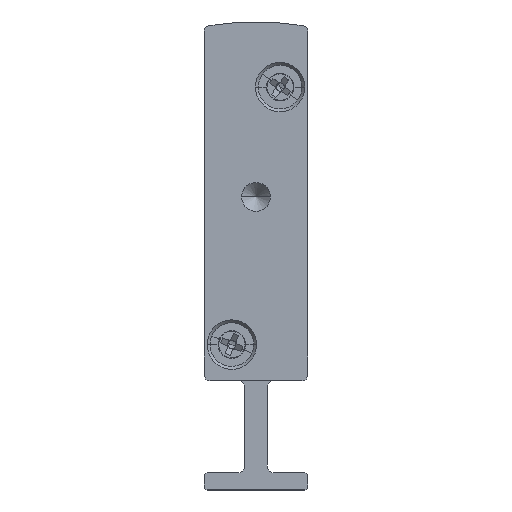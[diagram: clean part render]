
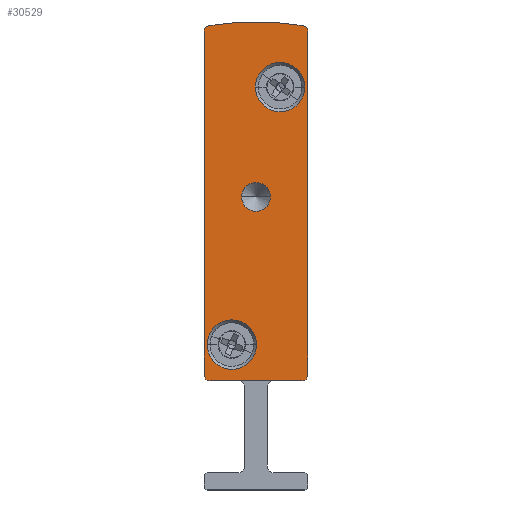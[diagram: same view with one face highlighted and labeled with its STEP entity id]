
A CAD part, front view. The second image highlights one B-rep face of the part: STEP entity #30529.
In plain terms, the highlighted planar face has unit normal (0, -1, 0).
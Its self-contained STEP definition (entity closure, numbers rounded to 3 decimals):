
#770 = ORIENTED_EDGE ( 'NONE', *, *, #28836, .F. ) ;
#828 = FACE_BOUND ( 'NONE', #26409, .T. ) ;
#1047 = ORIENTED_EDGE ( 'NONE', *, *, #9826, .F. ) ;
#1087 = CARTESIAN_POINT ( 'NONE',  ( 2.4, -2.5, 12.65 ) ) ;
#1127 = DIRECTION ( 'NONE',  ( 0., 1., 0. ) ) ;
#1265 = DIRECTION ( 'NONE',  ( -1., 0., 0. ) ) ;
#1485 = CARTESIAN_POINT ( 'NONE',  ( 4.5, -2.5, 17.092 ) ) ;
#1662 = EDGE_CURVE ( 'NONE', #31663, #1924, #32577, .T. ) ;
#1899 = AXIS2_PLACEMENT_3D ( 'NONE', #31863, #1127, #5954 ) ;
#1924 = VERTEX_POINT ( 'NONE', #32364 ) ;
#2090 = LINE ( 'NONE', #26992, #16566 ) ;
#2353 = AXIS2_PLACEMENT_3D ( 'NONE', #27039, #11774, #14051 ) ;
#2360 = DIRECTION ( 'NONE',  ( 0., 1., 0. ) ) ;
#2362 = ORIENTED_EDGE ( 'NONE', *, *, #31043, .F. ) ;
#2448 = CARTESIAN_POINT ( 'NONE',  ( 8.75, -2.5, 35.05 ) ) ;
#2470 = CARTESIAN_POINT ( 'NONE',  ( 9., -2.5, 39.902 ) ) ;
#2580 = CARTESIAN_POINT ( 'NONE',  ( 3.25, -2.5, 25.5 ) ) ;
#2834 = EDGE_CURVE ( 'NONE', #10949, #5646, #22058, .T. ) ;
#3216 = CIRCLE ( 'NONE', #4233, 2.15 ) ;
#3447 = DIRECTION ( 'NONE',  ( 1., 0., 0. ) ) ;
#3501 = CIRCLE ( 'NONE', #21166, 0.5 ) ;
#3577 = AXIS2_PLACEMENT_3D ( 'NONE', #10889, #16096, #13467 ) ;
#3696 = DIRECTION ( 'NONE',  ( 0., -1., 0. ) ) ;
#3792 = CARTESIAN_POINT ( 'NONE',  ( 2.4, -2.5, 12.65 ) ) ;
#3888 = EDGE_CURVE ( 'NONE', #11484, #31663, #8700, .T. ) ;
#4233 = AXIS2_PLACEMENT_3D ( 'NONE', #3792, #3696, #19091 ) ;
#4255 = ORIENTED_EDGE ( 'NONE', *, *, #22840, .F. ) ;
#4574 = CIRCLE ( 'NONE', #2353, 2.15 ) ;
#4666 = ORIENTED_EDGE ( 'NONE', *, *, #19919, .F. ) ;
#5559 = EDGE_CURVE ( 'NONE', #11853, #27785, #3216, .T. ) ;
#5646 = VERTEX_POINT ( 'NONE', #8820 ) ;
#5759 = VECTOR ( 'NONE', #19908, 1000. ) ;
#5954 = DIRECTION ( 'NONE',  ( -1., 0., 0. ) ) ;
#6392 = CIRCLE ( 'NONE', #21076, 23.658 ) ;
#7412 = DIRECTION ( 'NONE',  ( 0., 1., 0. ) ) ;
#7608 = CIRCLE ( 'NONE', #21108, 2.15 ) ;
#8058 = ORIENTED_EDGE ( 'NONE', *, *, #2834, .F. ) ;
#8133 = AXIS2_PLACEMENT_3D ( 'NONE', #20253, #2360, #22571 ) ;
#8700 = CIRCLE ( 'NONE', #26419, 0.5 ) ;
#8820 = CARTESIAN_POINT ( 'NONE',  ( 4.45, -2.5, 35.05 ) ) ;
#9051 = VERTEX_POINT ( 'NONE', #23441 ) ;
#9285 = AXIS2_PLACEMENT_3D ( 'NONE', #12431, #25474, #10076 ) ;
#9332 = CARTESIAN_POINT ( 'NONE',  ( 9., -2.5, 39.902 ) ) ;
#9591 = FACE_BOUND ( 'NONE', #27499, .T. ) ;
#9826 = EDGE_CURVE ( 'NONE', #24157, #17738, #3501, .T. ) ;
#9956 = ORIENTED_EDGE ( 'NONE', *, *, #1662, .F. ) ;
#9987 = EDGE_LOOP ( 'NONE', ( #20468, #770 ) ) ;
#10070 = CARTESIAN_POINT ( 'NONE',  ( 0.5, -2.5, 9.5 ) ) ;
#10076 = DIRECTION ( 'NONE',  ( -1., 0., 0. ) ) ;
#10565 = EDGE_CURVE ( 'NONE', #27575, #27314, #23855, .T. ) ;
#10889 = CARTESIAN_POINT ( 'NONE',  ( 0.5, -2.5, 39.902 ) ) ;
#10949 = VERTEX_POINT ( 'NONE', #2448 ) ;
#11484 = VERTEX_POINT ( 'NONE', #30665 ) ;
#11774 = DIRECTION ( 'NONE',  ( 0., -1., 0. ) ) ;
#11853 = VERTEX_POINT ( 'NONE', #17508 ) ;
#12410 = FACE_OUTER_BOUND ( 'NONE', #17760, .T. ) ;
#12431 = CARTESIAN_POINT ( 'NONE',  ( 8.5, -2.5, 10. ) ) ;
#12530 = DIRECTION ( 'NONE',  ( -1., 0., 0. ) ) ;
#12554 = VECTOR ( 'NONE', #20690, 1000. ) ;
#13467 = DIRECTION ( 'NONE',  ( -1., 0., 0. ) ) ;
#14051 = DIRECTION ( 'NONE',  ( 1., 0., 0. ) ) ;
#14405 = ORIENTED_EDGE ( 'NONE', *, *, #10565, .T. ) ;
#14609 = DIRECTION ( 'NONE',  ( -1., 0., 0. ) ) ;
#15943 = CIRCLE ( 'NONE', #9285, 0.5 ) ;
#16054 = ORIENTED_EDGE ( 'NONE', *, *, #19535, .F. ) ;
#16096 = DIRECTION ( 'NONE',  ( 0., 1., 0. ) ) ;
#16518 = PLANE ( 'NONE',  #1899 ) ;
#16566 = VECTOR ( 'NONE', #32091, 1000. ) ;
#16802 = VERTEX_POINT ( 'NONE', #20747 ) ;
#17508 = CARTESIAN_POINT ( 'NONE',  ( 4.55, -2.5, 12.65 ) ) ;
#17716 = CARTESIAN_POINT ( 'NONE',  ( 6.6, -2.5, 35.05 ) ) ;
#17738 = VERTEX_POINT ( 'NONE', #28022 ) ;
#17760 = EDGE_LOOP ( 'NONE', ( #32983, #16054, #1047, #4666, #26316, #9956, #18149, #2362 ) ) ;
#18098 = FACE_BOUND ( 'NONE', #9987, .T. ) ;
#18149 = ORIENTED_EDGE ( 'NONE', *, *, #3888, .F. ) ;
#19091 = DIRECTION ( 'NONE',  ( 1., 0., 0. ) ) ;
#19535 = EDGE_CURVE ( 'NONE', #17738, #9051, #22257, .T. ) ;
#19697 = DIRECTION ( 'NONE',  ( -1., 0., 0. ) ) ;
#19908 = DIRECTION ( 'NONE',  ( 0., 0., 1. ) ) ;
#19919 = EDGE_CURVE ( 'NONE', #31527, #24157, #2090, .T. ) ;
#20102 = DIRECTION ( 'NONE',  ( 1., 0., 0. ) ) ;
#20253 = CARTESIAN_POINT ( 'NONE',  ( 4.5, -2.5, 25.5 ) ) ;
#20468 = ORIENTED_EDGE ( 'NONE', *, *, #5559, .F. ) ;
#20690 = DIRECTION ( 'NONE',  ( 0., 0., -1. ) ) ;
#20747 = CARTESIAN_POINT ( 'NONE',  ( 0.408, -2.5, 40.393 ) ) ;
#21076 = AXIS2_PLACEMENT_3D ( 'NONE', #1485, #32016, #1265 ) ;
#21108 = AXIS2_PLACEMENT_3D ( 'NONE', #1087, #31725, #3447 ) ;
#21166 = AXIS2_PLACEMENT_3D ( 'NONE', #28128, #7412, #12530 ) ;
#21613 = EDGE_CURVE ( 'NONE', #9051, #16802, #24378, .T. ) ;
#21905 = AXIS2_PLACEMENT_3D ( 'NONE', #17716, #27979, #20102 ) ;
#22058 = CIRCLE ( 'NONE', #21905, 2.15 ) ;
#22185 = CARTESIAN_POINT ( 'NONE',  ( 4.5, -2.5, 25.5 ) ) ;
#22257 = LINE ( 'NONE', #32916, #5759 ) ;
#22571 = DIRECTION ( 'NONE',  ( -1., 0., 0. ) ) ;
#22761 = CIRCLE ( 'NONE', #8133, 1.25 ) ;
#22840 = EDGE_CURVE ( 'NONE', #5646, #10949, #4574, .T. ) ;
#23441 = CARTESIAN_POINT ( 'NONE',  ( 0., -2.5, 39.902 ) ) ;
#23855 = CIRCLE ( 'NONE', #24160, 1.25 ) ;
#23917 = CARTESIAN_POINT ( 'NONE',  ( 8.5, -2.5, 9.5 ) ) ;
#24157 = VERTEX_POINT ( 'NONE', #10070 ) ;
#24160 = AXIS2_PLACEMENT_3D ( 'NONE', #22185, #32249, #19697 ) ;
#24378 = CIRCLE ( 'NONE', #3577, 0.5 ) ;
#24913 = EDGE_CURVE ( 'NONE', #27314, #27575, #22761, .T. ) ;
#25474 = DIRECTION ( 'NONE',  ( 0., 1., 0. ) ) ;
#26316 = ORIENTED_EDGE ( 'NONE', *, *, #27125, .F. ) ;
#26409 = EDGE_LOOP ( 'NONE', ( #8058, #4255 ) ) ;
#26419 = AXIS2_PLACEMENT_3D ( 'NONE', #32938, #29928, #14609 ) ;
#26992 = CARTESIAN_POINT ( 'NONE',  ( 0.5, -2.5, 9.5 ) ) ;
#27039 = CARTESIAN_POINT ( 'NONE',  ( 6.6, -2.5, 35.05 ) ) ;
#27125 = EDGE_CURVE ( 'NONE', #1924, #31527, #15943, .T. ) ;
#27314 = VERTEX_POINT ( 'NONE', #2580 ) ;
#27499 = EDGE_LOOP ( 'NONE', ( #33078, #14405 ) ) ;
#27575 = VERTEX_POINT ( 'NONE', #29310 ) ;
#27785 = VERTEX_POINT ( 'NONE', #30958 ) ;
#27979 = DIRECTION ( 'NONE',  ( 0., -1., 0. ) ) ;
#28022 = CARTESIAN_POINT ( 'NONE',  ( 0., -2.5, 10. ) ) ;
#28128 = CARTESIAN_POINT ( 'NONE',  ( 0.5, -2.5, 10. ) ) ;
#28836 = EDGE_CURVE ( 'NONE', #27785, #11853, #7608, .T. ) ;
#29310 = CARTESIAN_POINT ( 'NONE',  ( 5.75, -2.5, 25.5 ) ) ;
#29928 = DIRECTION ( 'NONE',  ( 0., 1., 0. ) ) ;
#30529 = ADVANCED_FACE ( 'NONE', ( #828, #18098, #12410, #9591 ), #16518, .F. ) ;
#30665 = CARTESIAN_POINT ( 'NONE',  ( 8.592, -2.5, 40.393 ) ) ;
#30958 = CARTESIAN_POINT ( 'NONE',  ( 0.25, -2.5, 12.65 ) ) ;
#31043 = EDGE_CURVE ( 'NONE', #16802, #11484, #6392, .T. ) ;
#31527 = VERTEX_POINT ( 'NONE', #23917 ) ;
#31663 = VERTEX_POINT ( 'NONE', #9332 ) ;
#31725 = DIRECTION ( 'NONE',  ( 0., -1., 0. ) ) ;
#31863 = CARTESIAN_POINT ( 'NONE',  ( 0.5, -2.5, 39.902 ) ) ;
#32016 = DIRECTION ( 'NONE',  ( 0., 1., 0. ) ) ;
#32091 = DIRECTION ( 'NONE',  ( -1., 0., 0. ) ) ;
#32249 = DIRECTION ( 'NONE',  ( 0., 1., 0. ) ) ;
#32364 = CARTESIAN_POINT ( 'NONE',  ( 9., -2.5, 10. ) ) ;
#32577 = LINE ( 'NONE', #2470, #12554 ) ;
#32916 = CARTESIAN_POINT ( 'NONE',  ( 0., -2.5, 39.902 ) ) ;
#32938 = CARTESIAN_POINT ( 'NONE',  ( 8.5, -2.5, 39.902 ) ) ;
#32983 = ORIENTED_EDGE ( 'NONE', *, *, #21613, .F. ) ;
#33078 = ORIENTED_EDGE ( 'NONE', *, *, #24913, .T. ) ;
